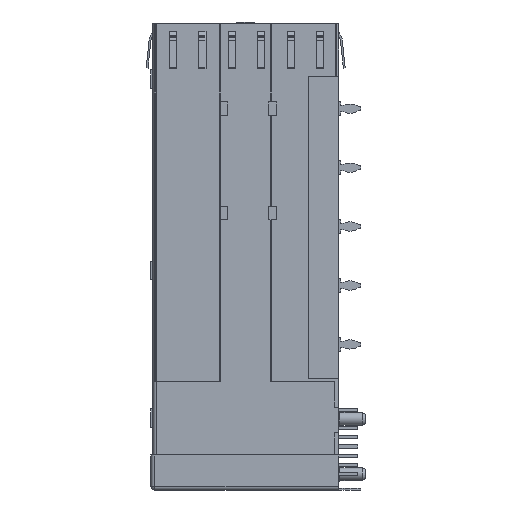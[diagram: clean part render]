
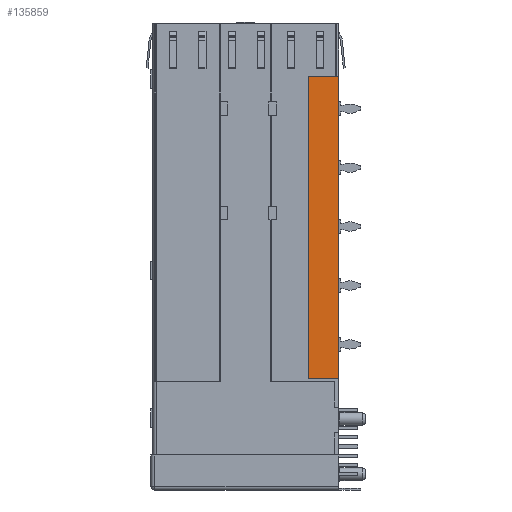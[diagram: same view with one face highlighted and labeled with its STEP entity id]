
A CAD part, left-side view. The second image highlights one B-rep face of the part: STEP entity #135859.
In plain terms, the highlighted planar face has unit normal (-1, 0, 0).
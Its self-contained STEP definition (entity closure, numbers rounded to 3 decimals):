
#10513 = ORIENTED_EDGE ( 'NONE', *, *, #90044, .F. ) ;
#16695 = VERTEX_POINT ( 'NONE', #75653 ) ;
#19570 = CARTESIAN_POINT ( 'NONE',  ( -57.375, 0., -48.1 ) ) ;
#23145 = CARTESIAN_POINT ( 'NONE',  ( -57.375, 0., 0. ) ) ;
#24207 = CARTESIAN_POINT ( 'NONE',  ( -57.375, 4.1, -7.1 ) ) ;
#29765 = DIRECTION ( 'NONE',  ( 0., -1., 0. ) ) ;
#30392 = DIRECTION ( 'NONE',  ( 0., 1., 0. ) ) ;
#33878 = DIRECTION ( 'NONE',  ( 1., 0., 0. ) ) ;
#35738 = EDGE_LOOP ( 'NONE', ( #64618, #70988, #55842, #10513 ) ) ;
#36014 = CARTESIAN_POINT ( 'NONE',  ( -57.375, 4.1, -7.1 ) ) ;
#44898 = EDGE_CURVE ( 'NONE', #88635, #109326, #128560, .T. ) ;
#46968 = CARTESIAN_POINT ( 'NONE',  ( -57.375, 0., -48.1 ) ) ;
#48947 = LINE ( 'NONE', #19570, #102815 ) ;
#49661 = DIRECTION ( 'NONE',  ( 0., 0., -1. ) ) ;
#49956 = FACE_OUTER_BOUND ( 'NONE', #35738, .T. ) ;
#55842 = ORIENTED_EDGE ( 'NONE', *, *, #68003, .F. ) ;
#60436 = CARTESIAN_POINT ( 'NONE',  ( -57.375, 0., -7.1 ) ) ;
#60624 = LINE ( 'NONE', #60436, #104408 ) ;
#63000 = LINE ( 'NONE', #24207, #91653 ) ;
#64618 = ORIENTED_EDGE ( 'NONE', *, *, #44898, .F. ) ;
#65852 = CARTESIAN_POINT ( 'NONE',  ( -57.375, 0., -7.1 ) ) ;
#67201 = VERTEX_POINT ( 'NONE', #46968 ) ;
#68003 = EDGE_CURVE ( 'NONE', #67201, #16695, #48947, .T. ) ;
#70988 = ORIENTED_EDGE ( 'NONE', *, *, #72474, .F. ) ;
#72474 = EDGE_CURVE ( 'NONE', #16695, #88635, #63000, .T. ) ;
#75653 = CARTESIAN_POINT ( 'NONE',  ( -57.375, 4.1, -48.1 ) ) ;
#88635 = VERTEX_POINT ( 'NONE', #36014 ) ;
#90044 = EDGE_CURVE ( 'NONE', #109326, #67201, #60624, .T. ) ;
#91653 = VECTOR ( 'NONE', #99341, 1000. ) ;
#96658 = VECTOR ( 'NONE', #29765, 1000. ) ;
#98301 = PLANE ( 'NONE',  #109539 ) ;
#99341 = DIRECTION ( 'NONE',  ( 0., 0., 1. ) ) ;
#102815 = VECTOR ( 'NONE', #30392, 1000. ) ;
#104408 = VECTOR ( 'NONE', #49661, 1000. ) ;
#104928 = CARTESIAN_POINT ( 'NONE',  ( -57.375, 0., -7.1 ) ) ;
#109073 = DIRECTION ( 'NONE',  ( 0., 0., 1. ) ) ;
#109326 = VERTEX_POINT ( 'NONE', #65852 ) ;
#109539 = AXIS2_PLACEMENT_3D ( 'NONE', #23145, #33878, #109073 ) ;
#128560 = LINE ( 'NONE', #104928, #96658 ) ;
#135859 = ADVANCED_FACE ( 'NONE', ( #49956 ), #98301, .F. ) ;
